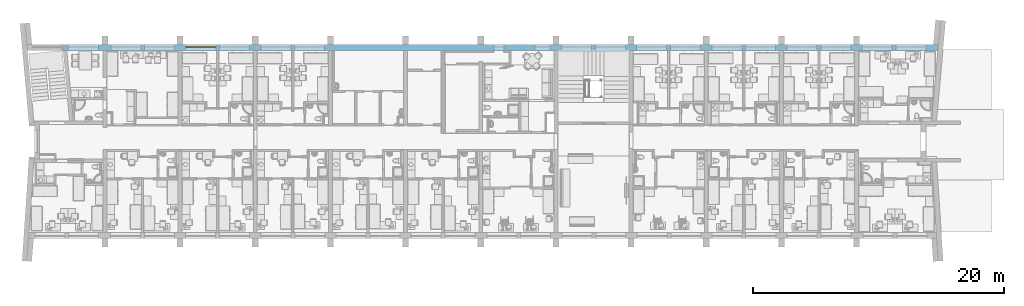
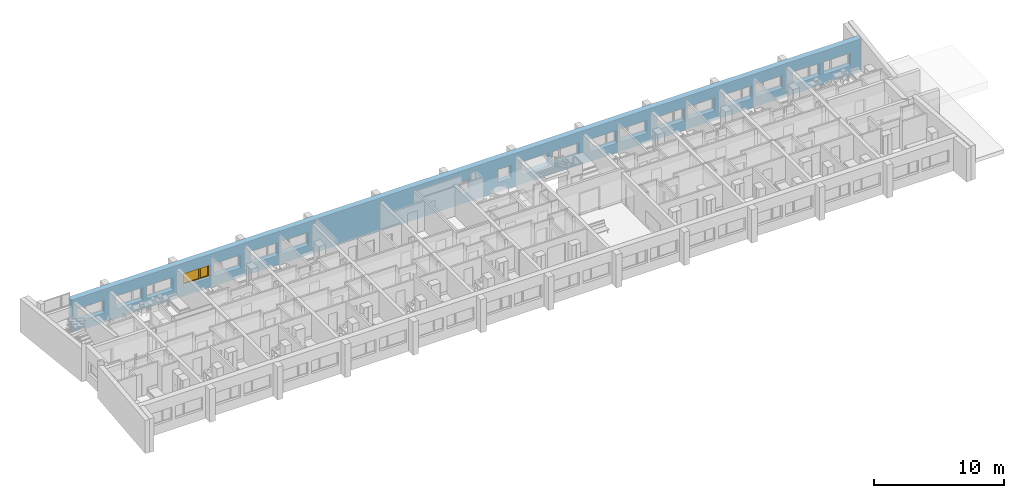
# One storey, part 22 of 172: 1 window, 19 openings, plus 1 element that does not belong to this part.
"""IFC2X3 building model written with IfcOpenShell, lengths in millimetres."""

from ifc_helpers import new_model, entity, si_unit, converted_unit, money_unit, direction, frame, origin_with_axes, place, context, subcontext, project, spatial, polyline, outline, extrude, open_shell, faceted_brep, surface_model, source, transform, mapped, material, material_list, layer, layer_set, layer_usage, type_object, element, fill, save


model = new_model("IFC2X3")

# Units and contexts
model_context = context("Model", 3, precision=1e-05, world=origin_with_axes(), true_north=direction((0.0, 1.0)))
body_context = subcontext(model_context, "Body", "Model", "MODEL_VIEW")
ifc_project = project(units=[si_unit("LENGTHUNIT", "METRE", prefix="MILLI"), si_unit("AREAUNIT", "SQUARE_METRE"), si_unit("VOLUMEUNIT", "CUBIC_METRE"), converted_unit("PLANEANGLEUNIT", "DEGREE", entity("IfcPlaneAngleMeasure", 0.0174532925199), si_unit("PLANEANGLEUNIT", "RADIAN"), dimensions=[0, 0, 0, 0, 0, 0, 0]), si_unit("SOLIDANGLEUNIT", "STERADIAN"), money_unit("USD"), converted_unit("TIMEUNIT", "Year", entity("IfcTimeMeasure", 31556926.0), si_unit("TIMEUNIT", "SECOND"), dimensions=[0, 0, 0, 0, 0, 0, 0]), si_unit("MASSUNIT", "GRAM"), si_unit("THERMODYNAMICTEMPERATUREUNIT", "DEGREE_CELSIUS"), si_unit("LUMINOUSINTENSITYUNIT", "LUMEN")], contexts=[model_context])

# Site, building, storey
site_placement = place(None, origin_with_axes())
site = spatial("IfcSite", under=ifc_project, at=site_placement, Name="Site", CompositionType="ELEMENT")
building_placement = place(site_placement, origin_with_axes())
building = spatial("IfcBuilding", under=site, at=building_placement, Name="Building", CompositionType="ELEMENT")
storey_placement = place(building_placement, frame((0.0, 0.0, 3200.0), z_axis=(0.0, 0.0, 1.0), x_axis=(1.0, 0.0, 0.0)))
storey = spatial("IfcBuildingStorey", under=building, at=storey_placement, Name="3KORRUS", CompositionType="ELEMENT", Elevation=3200.0)

# Wall, openings, window
ifc_material_1 = material(Name="Olemasolevad seinad tellis, uus viimistlus")
ifc_layer = layer(ifc_material_1, 500.0, ventilated="UNKNOWN")
ifc_layer_set = layer_set([ifc_layer], Name="Olemasolevad seinad tellis, uus viimistlus 500")
ifc_layer_usage = layer_usage(ifc_layer_set, "AXIS2", "POSITIVE", -100.0)
wall_type = type_object("IfcWallType", Name="Olemasolevad seinad tellis, uus viimistlus 500", PredefinedType="NOTDEFINED")
wall_placement = place(storey_placement, frame((-51569.3388124, -5039.6041088, 0.0), z_axis=(0.0, 0.0, 1.0), x_axis=(1.0, 0.0, 0.0)))
wall = element("IfcWallStandardCase", 1, at=wall_placement, inside=storey, type_object=wall_type, material=ifc_layer_usage, Name="VS1", ObjectType="VS1", context=body_context, shape_type="SweptSolid", body=[
    extrude(outline(polyline([(0.0, -100.0), (69914.7195482, -100.0), (69959.6995146, 400.0), (0.0, 400.0), (0.0, -100.0)])), origin_with_axes(), (0.0, 0.0, 1.0), 3100.0),
])
opening_1_placement = place(wall_placement, frame((34879.0421091, 0.0, 900.0), z_axis=(0.0, 0.0, 1.0), x_axis=(1.0, 0.0, 0.0)))
element("IfcOpeningElement", 2, at=opening_1_placement, cuts=wall, Name="WD - 001", context=body_context, shape_type="SweptSolid", body=[
    extrude(outline(polyline([(-400.0, 1200.0), (-400.0, 0.0), (400.0, 0.0), (400.0, 1200.0), (-400.0, 1200.0)])), frame((0.0, 200.0, 0.0), z_axis=(0.0, -1.0, 0.0), x_axis=(1.0, 0.0, 0.0)), (0.0, 0.0, 1.0), 800.0),
    extrude(outline(polyline([(-400.0, 0.0), (-400.0, -1200.0), (400.0, -1200.0), (400.0, 0.0), (-400.0, 0.0)])), frame((0.0, 200.0, 0.0), z_axis=(0.0, 1.0, 0.0), x_axis=(1.0, 0.0, 0.0)), (0.0, 0.0, 1.0), 700.0),
])
opening_2_placement = place(wall_placement, frame((38352.6323068, 0.0, 900.0), z_axis=(0.0, 0.0, 1.0), x_axis=(1.0, 0.0, 0.0)))
element("IfcOpeningElement", 3, at=opening_2_placement, cuts=wall, Name="A3", context=body_context, shape_type="SweptSolid", body=[
    extrude(outline(polyline([(-600.0, 1200.0), (-600.0, 0.0), (600.0, 0.0), (600.0, 1200.0), (-600.0, 1200.0)])), frame((0.0, 200.0, 0.0), z_axis=(0.0, -1.0, 0.0), x_axis=(1.0, 0.0, 0.0)), (0.0, 0.0, 1.0), 800.0),
    extrude(outline(polyline([(-600.0, 0.0), (-600.0, -1200.0), (600.0, -1200.0), (600.0, 0.0), (-600.0, 0.0)])), frame((0.0, 200.0, 0.0), z_axis=(0.0, 1.0, 0.0), x_axis=(1.0, 0.0, 0.0)), (0.0, 0.0, 1.0), 700.0),
])
opening_3_placement = place(wall_placement, frame((1700.0, 0.0, 900.0), z_axis=(0.0, 0.0, 1.0), x_axis=(1.0, 0.0, 0.0)))
element("IfcOpeningElement", 4, at=opening_3_placement, cuts=wall, Name="A1", context=body_context, shape_type="SweptSolid", body=[
    extrude(outline(polyline([(1200.0, 1200.0), (-1200.0, 1200.0), (-1200.0, 0.0), (1200.0, 0.0), (1200.0, 1200.0)])), frame((0.0, 200.0, 0.0), z_axis=(0.0, -1.0, 0.0), x_axis=(1.0, 0.0, 0.0)), (0.0, 0.0, 1.0), 800.0),
    extrude(outline(polyline([(1200.0, 0.0), (-1200.0, 0.0), (-1200.0, -1200.0), (1200.0, -1200.0), (1200.0, 0.0)])), frame((0.0, 200.0, 0.0), z_axis=(0.0, 1.0, 0.0), x_axis=(1.0, 0.0, 0.0)), (0.0, 0.0, 1.0), 700.0),
])
opening_4_placement = place(wall_placement, frame((7795.91085613, 0.0, 900.0), z_axis=(0.0, 0.0, 1.0), x_axis=(1.0, 0.0, 0.0)))
element("IfcOpeningElement", 5, at=opening_4_placement, cuts=wall, Name="A1", context=body_context, shape_type="SweptSolid", body=[
    extrude(outline(polyline([(1200.0, 1200.0), (-1200.0, 1200.0), (-1200.0, 0.0), (1200.0, 0.0), (1200.0, 1200.0)])), frame((0.0, 200.0, 0.0), z_axis=(0.0, -1.0, 0.0), x_axis=(1.0, 0.0, 0.0)), (0.0, 0.0, 1.0), 800.0),
    extrude(outline(polyline([(1200.0, 0.0), (-1200.0, 0.0), (-1200.0, -1200.0), (1200.0, -1200.0), (1200.0, 0.0)])), frame((0.0, 200.0, 0.0), z_axis=(0.0, 1.0, 0.0), x_axis=(1.0, 0.0, 0.0)), (0.0, 0.0, 1.0), 700.0),
])
opening_5_placement = place(wall_placement, frame((5095.91085613, 0.0, 900.0), z_axis=(0.0, 0.0, 1.0), x_axis=(1.0, 0.0, 0.0)))
element("IfcOpeningElement", 6, at=opening_5_placement, cuts=wall, Name="A2", context=body_context, shape_type="SweptSolid", body=[
    extrude(outline(polyline([(-1200.0, 1200.0), (-1200.0, 0.0), (1200.0, 0.0), (1200.0, 1200.0), (-1200.0, 1200.0)])), frame((0.0, 200.0, 0.0), z_axis=(0.0, -1.0, 0.0), x_axis=(1.0, 0.0, 0.0)), (0.0, 0.0, 1.0), 800.0),
    extrude(outline(polyline([(-1200.0, 0.0), (-1200.0, -1200.0), (1200.0, -1200.0), (1200.0, 0.0), (-1200.0, 0.0)])), frame((0.0, 200.0, 0.0), z_axis=(0.0, 1.0, 0.0), x_axis=(1.0, 0.0, 0.0)), (0.0, 0.0, 1.0), 700.0),
])
opening_6_placement = place(wall_placement, frame((13779.0421091, 0.0, 900.0), z_axis=(0.0, 0.0, 1.0), x_axis=(1.0, 0.0, 0.0)))
element("IfcOpeningElement", 7, at=opening_6_placement, cuts=wall, Name="A1", context=body_context, shape_type="SweptSolid", body=[
    extrude(outline(polyline([(1200.0, 1200.0), (-1200.0, 1200.0), (-1200.0, 0.0), (1200.0, 0.0), (1200.0, 1200.0)])), frame((0.0, 200.0, 0.0), z_axis=(0.0, -1.0, 0.0), x_axis=(1.0, 0.0, 0.0)), (0.0, 0.0, 1.0), 800.0),
    extrude(outline(polyline([(1200.0, 0.0), (-1200.0, 0.0), (-1200.0, -1200.0), (1200.0, -1200.0), (1200.0, 0.0)])), frame((0.0, 200.0, 0.0), z_axis=(0.0, 1.0, 0.0), x_axis=(1.0, 0.0, 0.0)), (0.0, 0.0, 1.0), 700.0),
])
opening_7_placement = place(wall_placement, frame((11079.0421091, 0.0, 900.0), z_axis=(0.0, 0.0, 1.0), x_axis=(1.0, 0.0, 0.0)))
opening_7 = element("IfcOpeningElement", 8, at=opening_7_placement, cuts=wall, Name="A2", context=body_context, shape_type="SweptSolid", body=[
    extrude(outline(polyline([(-1200.0, 1200.0), (-1200.0, 0.0), (1200.0, 0.0), (1200.0, 1200.0), (-1200.0, 1200.0)])), frame((0.0, 200.0, 0.0), z_axis=(0.0, -1.0, 0.0), x_axis=(1.0, 0.0, 0.0)), (0.0, 0.0, 1.0), 800.0),
    extrude(outline(polyline([(-1200.0, 0.0), (-1200.0, -1200.0), (1200.0, -1200.0), (1200.0, 0.0), (-1200.0, 0.0)])), frame((0.0, 200.0, 0.0), z_axis=(0.0, 1.0, 0.0), x_axis=(1.0, 0.0, 0.0)), (0.0, 0.0, 1.0), 700.0),
])
opening_8_placement = place(wall_placement, frame((43769.0421091, 0.0, 900.0), z_axis=(0.0, 0.0, 1.0), x_axis=(1.0, 0.0, 0.0)))
element("IfcOpeningElement", 9, at=opening_8_placement, cuts=wall, Name="A1", context=body_context, shape_type="SweptSolid", body=[
    extrude(outline(polyline([(1200.0, 1200.0), (-1200.0, 1200.0), (-1200.0, 0.0), (1200.0, 0.0), (1200.0, 1200.0)])), frame((0.0, 200.0, 0.0), z_axis=(0.0, -1.0, 0.0), x_axis=(1.0, 0.0, 0.0)), (0.0, 0.0, 1.0), 800.0),
    extrude(outline(polyline([(1200.0, 0.0), (-1200.0, 0.0), (-1200.0, -1200.0), (1200.0, -1200.0), (1200.0, 0.0)])), frame((0.0, 200.0, 0.0), z_axis=(0.0, 1.0, 0.0), x_axis=(1.0, 0.0, 0.0)), (0.0, 0.0, 1.0), 700.0),
])
opening_9_placement = place(wall_placement, frame((41069.0421091, 0.0, 900.0), z_axis=(0.0, 0.0, 1.0), x_axis=(1.0, 0.0, 0.0)))
element("IfcOpeningElement", 10, at=opening_9_placement, cuts=wall, Name="A2", context=body_context, shape_type="SweptSolid", body=[
    extrude(outline(polyline([(-1200.0, 1200.0), (-1200.0, 0.0), (1200.0, 0.0), (1200.0, 1200.0), (-1200.0, 1200.0)])), frame((0.0, 200.0, 0.0), z_axis=(0.0, -1.0, 0.0), x_axis=(1.0, 0.0, 0.0)), (0.0, 0.0, 1.0), 800.0),
    extrude(outline(polyline([(-1200.0, 0.0), (-1200.0, -1200.0), (1200.0, -1200.0), (1200.0, 0.0), (-1200.0, 0.0)])), frame((0.0, 200.0, 0.0), z_axis=(0.0, 1.0, 0.0), x_axis=(1.0, 0.0, 0.0)), (0.0, 0.0, 1.0), 700.0),
])
opening_10_placement = place(wall_placement, frame((49769.0421091, 0.0, 900.0), z_axis=(0.0, 0.0, 1.0), x_axis=(1.0, 0.0, 0.0)))
element("IfcOpeningElement", 11, at=opening_10_placement, cuts=wall, Name="A1", context=body_context, shape_type="SweptSolid", body=[
    extrude(outline(polyline([(1200.0, 1200.0), (-1200.0, 1200.0), (-1200.0, 0.0), (1200.0, 0.0), (1200.0, 1200.0)])), frame((0.0, 200.0, 0.0), z_axis=(0.0, -1.0, 0.0), x_axis=(1.0, 0.0, 0.0)), (0.0, 0.0, 1.0), 800.0),
    extrude(outline(polyline([(1200.0, 0.0), (-1200.0, 0.0), (-1200.0, -1200.0), (1200.0, -1200.0), (1200.0, 0.0)])), frame((0.0, 200.0, 0.0), z_axis=(0.0, 1.0, 0.0), x_axis=(1.0, 0.0, 0.0)), (0.0, 0.0, 1.0), 700.0),
])
opening_11_placement = place(wall_placement, frame((47069.0421091, 0.0, 900.0), z_axis=(0.0, 0.0, 1.0), x_axis=(1.0, 0.0, 0.0)))
element("IfcOpeningElement", 12, at=opening_11_placement, cuts=wall, Name="A2", context=body_context, shape_type="SweptSolid", body=[
    extrude(outline(polyline([(-1200.0, 1200.0), (-1200.0, 0.0), (1200.0, 0.0), (1200.0, 1200.0), (-1200.0, 1200.0)])), frame((0.0, 200.0, 0.0), z_axis=(0.0, -1.0, 0.0), x_axis=(1.0, 0.0, 0.0)), (0.0, 0.0, 1.0), 800.0),
    extrude(outline(polyline([(-1200.0, 0.0), (-1200.0, -1200.0), (1200.0, -1200.0), (1200.0, 0.0), (-1200.0, 0.0)])), frame((0.0, 200.0, 0.0), z_axis=(0.0, 1.0, 0.0), x_axis=(1.0, 0.0, 0.0)), (0.0, 0.0, 1.0), 700.0),
])
opening_12_placement = place(wall_placement, frame((55769.0421091, 0.0, 900.0), z_axis=(0.0, 0.0, 1.0), x_axis=(1.0, 0.0, 0.0)))
element("IfcOpeningElement", 13, at=opening_12_placement, cuts=wall, Name="A1", context=body_context, shape_type="SweptSolid", body=[
    extrude(outline(polyline([(1200.0, 1200.0), (-1200.0, 1200.0), (-1200.0, 0.0), (1200.0, 0.0), (1200.0, 1200.0)])), frame((0.0, 200.0, 0.0), z_axis=(0.0, -1.0, 0.0), x_axis=(1.0, 0.0, 0.0)), (0.0, 0.0, 1.0), 800.0),
    extrude(outline(polyline([(1200.0, 0.0), (-1200.0, 0.0), (-1200.0, -1200.0), (1200.0, -1200.0), (1200.0, 0.0)])), frame((0.0, 200.0, 0.0), z_axis=(0.0, 1.0, 0.0), x_axis=(1.0, 0.0, 0.0)), (0.0, 0.0, 1.0), 700.0),
])
opening_13_placement = place(wall_placement, frame((53069.0421091, 0.0, 900.0), z_axis=(0.0, 0.0, 1.0), x_axis=(1.0, 0.0, 0.0)))
element("IfcOpeningElement", 14, at=opening_13_placement, cuts=wall, Name="A2", context=body_context, shape_type="SweptSolid", body=[
    extrude(outline(polyline([(-1200.0, 1200.0), (-1200.0, 0.0), (1200.0, 0.0), (1200.0, 1200.0), (-1200.0, 1200.0)])), frame((0.0, 200.0, 0.0), z_axis=(0.0, -1.0, 0.0), x_axis=(1.0, 0.0, 0.0)), (0.0, 0.0, 1.0), 800.0),
    extrude(outline(polyline([(-1200.0, 0.0), (-1200.0, -1200.0), (1200.0, -1200.0), (1200.0, 0.0), (-1200.0, 0.0)])), frame((0.0, 200.0, 0.0), z_axis=(0.0, 1.0, 0.0), x_axis=(1.0, 0.0, 0.0)), (0.0, 0.0, 1.0), 700.0),
])
opening_14_placement = place(wall_placement, frame((61769.0421091, 0.0, 900.0), z_axis=(0.0, 0.0, 1.0), x_axis=(1.0, 0.0, 0.0)))
element("IfcOpeningElement", 15, at=opening_14_placement, cuts=wall, Name="A1", context=body_context, shape_type="SweptSolid", body=[
    extrude(outline(polyline([(1200.0, 1200.0), (-1200.0, 1200.0), (-1200.0, 0.0), (1200.0, 0.0), (1200.0, 1200.0)])), frame((0.0, 200.0, 0.0), z_axis=(0.0, -1.0, 0.0), x_axis=(1.0, 0.0, 0.0)), (0.0, 0.0, 1.0), 800.0),
    extrude(outline(polyline([(1200.0, 0.0), (-1200.0, 0.0), (-1200.0, -1200.0), (1200.0, -1200.0), (1200.0, 0.0)])), frame((0.0, 200.0, 0.0), z_axis=(0.0, 1.0, 0.0), x_axis=(1.0, 0.0, 0.0)), (0.0, 0.0, 1.0), 700.0),
])
opening_15_placement = place(wall_placement, frame((59069.0421091, 0.0, 900.0), z_axis=(0.0, 0.0, 1.0), x_axis=(1.0, 0.0, 0.0)))
element("IfcOpeningElement", 16, at=opening_15_placement, cuts=wall, Name="A2", context=body_context, shape_type="SweptSolid", body=[
    extrude(outline(polyline([(-1200.0, 1200.0), (-1200.0, 0.0), (1200.0, 0.0), (1200.0, 1200.0), (-1200.0, 1200.0)])), frame((0.0, 200.0, 0.0), z_axis=(0.0, -1.0, 0.0), x_axis=(1.0, 0.0, 0.0)), (0.0, 0.0, 1.0), 800.0),
    extrude(outline(polyline([(-1200.0, 0.0), (-1200.0, -1200.0), (1200.0, -1200.0), (1200.0, 0.0), (-1200.0, 0.0)])), frame((0.0, 200.0, 0.0), z_axis=(0.0, 1.0, 0.0), x_axis=(1.0, 0.0, 0.0)), (0.0, 0.0, 1.0), 700.0),
])
opening_16_placement = place(wall_placement, frame((67773.3244043, 0.0, 900.0), z_axis=(0.0, 0.0, 1.0), x_axis=(1.0, 0.0, 0.0)))
element("IfcOpeningElement", 17, at=opening_16_placement, cuts=wall, Name="A1", context=body_context, shape_type="SweptSolid", body=[
    extrude(outline(polyline([(1200.0, 1200.0), (-1200.0, 1200.0), (-1200.0, 0.0), (1200.0, 0.0), (1200.0, 1200.0)])), frame((0.0, 200.0, 0.0), z_axis=(0.0, -1.0, 0.0), x_axis=(1.0, 0.0, 0.0)), (0.0, 0.0, 1.0), 800.0),
    extrude(outline(polyline([(1200.0, 0.0), (-1200.0, 0.0), (-1200.0, -1200.0), (1200.0, -1200.0), (1200.0, 0.0)])), frame((0.0, 200.0, 0.0), z_axis=(0.0, 1.0, 0.0), x_axis=(1.0, 0.0, 0.0)), (0.0, 0.0, 1.0), 700.0),
])
opening_17_placement = place(wall_placement, frame((65073.3244043, 0.0, 900.0), z_axis=(0.0, 0.0, 1.0), x_axis=(1.0, 0.0, 0.0)))
element("IfcOpeningElement", 18, at=opening_17_placement, cuts=wall, Name="A2", context=body_context, shape_type="SweptSolid", body=[
    extrude(outline(polyline([(-1200.0, 1200.0), (-1200.0, 0.0), (1200.0, 0.0), (1200.0, 1200.0), (-1200.0, 1200.0)])), frame((0.0, 200.0, 0.0), z_axis=(0.0, -1.0, 0.0), x_axis=(1.0, 0.0, 0.0)), (0.0, 0.0, 1.0), 800.0),
    extrude(outline(polyline([(-1200.0, 0.0), (-1200.0, -1200.0), (1200.0, -1200.0), (1200.0, 0.0), (-1200.0, 0.0)])), frame((0.0, 200.0, 0.0), z_axis=(0.0, 1.0, 0.0), x_axis=(1.0, 0.0, 0.0)), (0.0, 0.0, 1.0), 700.0),
])
opening_18_placement = place(wall_placement, frame((19767.4765851, 0.0, 900.0), z_axis=(0.0, 0.0, 1.0), x_axis=(1.0, 0.0, 0.0)))
element("IfcOpeningElement", 19, at=opening_18_placement, cuts=wall, Name="A1", context=body_context, shape_type="SweptSolid", body=[
    extrude(outline(polyline([(1200.0, 1200.0), (-1200.0, 1200.0), (-1200.0, 0.0), (1200.0, 0.0), (1200.0, 1200.0)])), frame((0.0, 200.0, 0.0), z_axis=(0.0, -1.0, 0.0), x_axis=(1.0, 0.0, 0.0)), (0.0, 0.0, 1.0), 800.0),
    extrude(outline(polyline([(1200.0, 0.0), (-1200.0, 0.0), (-1200.0, -1200.0), (1200.0, -1200.0), (1200.0, 0.0)])), frame((0.0, 200.0, 0.0), z_axis=(0.0, 1.0, 0.0), x_axis=(1.0, 0.0, 0.0)), (0.0, 0.0, 1.0), 700.0),
])
opening_19_placement = place(wall_placement, frame((17067.4765851, 0.0, 900.0), z_axis=(0.0, 0.0, 1.0), x_axis=(1.0, 0.0, 0.0)))
element("IfcOpeningElement", 20, at=opening_19_placement, cuts=wall, Name="A2", context=body_context, shape_type="SweptSolid", body=[
    extrude(outline(polyline([(-1200.0, 1200.0), (-1200.0, 0.0), (1200.0, 0.0), (1200.0, 1200.0), (-1200.0, 1200.0)])), frame((0.0, 200.0, 0.0), z_axis=(0.0, -1.0, 0.0), x_axis=(1.0, 0.0, 0.0)), (0.0, 0.0, 1.0), 800.0),
    extrude(outline(polyline([(-1200.0, 0.0), (-1200.0, -1200.0), (1200.0, -1200.0), (1200.0, 0.0), (-1200.0, 0.0)])), frame((0.0, 200.0, 0.0), z_axis=(0.0, 1.0, 0.0), x_axis=(1.0, 0.0, 0.0)), (0.0, 0.0, 1.0), 700.0),
])
ifc_material_2 = material(Name="Background")
ifc_material_list = material_list([ifc_material_2])
window_style = type_object("IfcWindowStyle", Name="Double Window 19", ConstructionType="NOTDEFINED", OperationType="DOUBLE_PANEL_VERTICAL", ParameterTakesPrecedence=False, Sizeable=False)
shared_shape = source(origin_with_axes(), body_context, "Body", "SurfaceModel", [
    faceted_brep([(-1175.0, -200.0, 1150.0), (-1200.0, -200.0, 1150.0), (-1200.0, -250.0, 1150.0), (-1150.0, -250.0, 1150.0), (-1150.0, -225.0, 1150.0), (-1175.0, -225.0, 1150.0), (-1175.0, -200.0, 50.0), (-1200.0, -200.0, 50.0), (-1200.0, -250.0, 50.0), (-1150.0, -250.0, 50.0), (-1150.0, -225.0, 50.0), (-1175.0, -225.0, 50.0)], [[[0, 1, 2, 3, 4, 5]], [[6, 7, 1, 0]], [[1, 7, 8, 2]], [[2, 8, 9, 3]], [[4, 3, 9, 10]], [[10, 11, 5, 4]], [[5, 11, 6, 0]], [[11, 10, 9, 8, 7, 6]]]),
    faceted_brep([(1150.0, -225.0, 1150.0), (1150.0, -250.0, 1150.0), (1200.0, -250.0, 1150.0), (1200.0, -200.0, 1150.0), (1175.0, -200.0, 1150.0), (1175.0, -225.0, 1150.0), (1150.0, -225.0, 50.0), (1150.0, -250.0, 50.0), (1200.0, -250.0, 50.0), (1200.0, -200.0, 50.0), (1175.0, -200.0, 50.0), (1175.0, -225.0, 50.0)], [[[0, 1, 2, 3, 4, 5]], [[6, 7, 1, 0]], [[8, 2, 1, 7]], [[9, 3, 2, 8]], [[4, 3, 9, 10]], [[10, 11, 5, 4]], [[5, 11, 6, 0]], [[11, 10, 9, 8, 7, 6]]]),
    faceted_brep([(350.0, -225.0, 1150.0), (350.0, -250.0, 1150.0), (450.0, -250.0, 1150.0), (450.0, -225.0, 1150.0), (425.0, -225.0, 1150.0), (425.0, -200.0, 1150.0), (375.0, -200.0, 1150.0), (375.0, -225.0, 1150.0), (350.0, -225.0, 50.0), (350.0, -250.0, 50.0), (450.0, -250.0, 50.0), (450.0, -225.0, 50.0), (425.0, -225.0, 50.0), (425.0, -200.0, 50.0), (375.0, -200.0, 50.0), (375.0, -225.0, 50.0)], [[[0, 1, 2, 3, 4, 5, 6, 7]], [[8, 9, 1, 0]], [[10, 2, 1, 9]], [[3, 2, 10, 11]], [[11, 12, 4, 3]], [[4, 12, 13, 5]], [[6, 5, 13, 14]], [[14, 15, 7, 6]], [[7, 15, 8, 0]], [[15, 14, 13, 12, 11, 10, 9, 8]]]),
    faceted_brep([(350.0, -225.0, 50.0), (350.0, -250.0, 50.0), (450.0, -250.0, 50.0), (450.0, -225.0, 50.0), (425.0, -225.0, 50.0), (425.0, -200.0, 50.0), (375.0, -200.0, 50.0), (375.0, -225.0, 50.0), (-1150.0, -225.0, 50.0), (-1150.0, -250.0, 50.0), (-1200.0, -250.0, 50.0), (-1200.0, -250.0, 0.0), (1200.0, -250.0, 0.0), (1200.0, -250.0, 50.0), (1150.0, -250.0, 50.0), (1150.0, -225.0, 50.0), (1175.0, -225.0, 50.0), (1175.0, -225.0, 25.0), (425.0, -225.0, 25.0), (425.0, -200.0, 25.0), (-1175.0, -200.0, 25.0), (375.0, -200.0, 25.0), (1175.0, -200.0, 25.0), (1175.0, -200.0, 50.0), (1200.0, -200.0, 50.0), (1200.0, -200.0, 0.0), (-1200.0, -200.0, 0.0), (-1200.0, -200.0, 50.0), (-1175.0, -200.0, 50.0), (375.0, -225.0, 25.0), (-1175.0, -225.0, 25.0), (-1175.0, -225.0, 50.0)], [[[0, 1, 2, 3, 4, 5, 6, 7]], [[8, 9, 1, 0]], [[10, 11, 12, 13, 14, 2, 1, 9]], [[3, 2, 14, 15]], [[16, 17, 18, 4, 3, 15]], [[4, 18, 19, 5]], [[20, 21, 6, 5, 19, 22, 23, 24, 25, 26, 27, 28]], [[21, 29, 7, 6]], [[7, 29, 30, 31, 8, 0]], [[31, 28, 27, 10, 9, 8]], [[27, 26, 11, 10]], [[26, 25, 12, 11]], [[25, 24, 13, 12]], [[15, 14, 13, 24, 23, 16]], [[22, 17, 16, 23]], [[19, 18, 17, 22]], [[20, 30, 29, 21]], [[31, 30, 20, 28]]]),
    faceted_brep([(-1175.0, -200.0, 1150.0), (-1200.0, -200.0, 1150.0), (-1200.0, -200.0, 1200.0), (1200.0, -200.0, 1200.0), (1200.0, -200.0, 1150.0), (1175.0, -200.0, 1150.0), (1175.0, -200.0, 1175.0), (425.0, -200.0, 1175.0), (425.0, -200.0, 1150.0), (375.0, -200.0, 1150.0), (375.0, -200.0, 1175.0), (-1175.0, -200.0, 1175.0), (-1175.0, -225.0, 1150.0), (-1150.0, -225.0, 1150.0), (-1150.0, -250.0, 1150.0), (-1200.0, -250.0, 1150.0), (-1200.0, -250.0, 1200.0), (1200.0, -250.0, 1200.0), (1200.0, -250.0, 1150.0), (1175.0, -225.0, 1150.0), (1150.0, -250.0, 1150.0), (1150.0, -225.0, 1150.0), (1175.0, -225.0, 1175.0), (425.0, -225.0, 1175.0), (425.0, -225.0, 1150.0), (375.0, -225.0, 1150.0), (450.0, -225.0, 1150.0), (450.0, -250.0, 1150.0), (350.0, -250.0, 1150.0), (350.0, -225.0, 1150.0), (375.0, -225.0, 1175.0), (-1175.0, -225.0, 1175.0)], [[[0, 1, 2, 3, 4, 5, 6, 7, 8, 9, 10, 11]], [[12, 13, 14, 15, 1, 0]], [[2, 1, 15, 16]], [[3, 2, 16, 17]], [[4, 3, 17, 18]], [[19, 5, 4, 18, 20, 21]], [[5, 19, 22, 6]], [[6, 22, 23, 7]], [[7, 23, 24, 8]], [[25, 9, 8, 24, 26, 27, 28, 29]], [[9, 25, 30, 10]], [[10, 30, 31, 11]], [[11, 31, 12, 0]], [[29, 13, 12, 31, 30, 25]], [[29, 28, 14, 13]], [[27, 20, 18, 17, 16, 15, 14, 28]], [[21, 20, 27, 26]], [[21, 26, 24, 23, 22, 19]]]),
    faceted_brep([(-1125.0, -225.0, 1125.0), (-1125.0, -175.0, 1125.0), (-1175.0, -175.0, 1125.0), (-1175.0, -225.0, 1125.0), (-1125.0, -225.0, 75.0), (-1125.0, -175.0, 75.0), (-1175.0, -175.0, 75.0), (-1175.0, -225.0, 75.0)], [[[0, 1, 2, 3]], [[4, 5, 1, 0]], [[1, 5, 6, 2]], [[3, 2, 6, 7]], [[0, 3, 7, 4]], [[7, 6, 5, 4]]]),
    faceted_brep([(325.0, -225.0, 75.0), (325.0, -175.0, 75.0), (375.0, -175.0, 75.0), (375.0, -225.0, 75.0), (325.0, -225.0, 1125.0), (325.0, -175.0, 1125.0), (375.0, -175.0, 1125.0), (375.0, -225.0, 1125.0)], [[[0, 1, 2, 3]], [[4, 5, 1, 0]], [[1, 5, 6, 2]], [[3, 2, 6, 7]], [[0, 3, 7, 4]], [[7, 6, 5, 4]]]),
    faceted_brep([(375.0, -225.0, 25.0), (375.0, -175.0, 25.0), (375.0, -175.0, 75.0), (375.0, -225.0, 75.0), (-1175.0, -225.0, 25.0), (-1175.0, -175.0, 25.0), (-1175.0, -175.0, 75.0), (-1125.0, -175.0, 75.0), (325.0, -175.0, 75.0), (325.0, -225.0, 75.0), (-1125.0, -225.0, 75.0), (-1175.0, -225.0, 75.0)], [[[0, 1, 2, 3]], [[4, 5, 1, 0]], [[1, 5, 6, 7, 8, 2]], [[3, 2, 8, 9]], [[0, 3, 9, 10, 11, 4]], [[11, 6, 5, 4]], [[10, 7, 6, 11]], [[9, 8, 7, 10]]]),
    faceted_brep([(-1175.0, -225.0, 1175.0), (-1175.0, -175.0, 1175.0), (-1175.0, -175.0, 1125.0), (-1175.0, -225.0, 1125.0), (375.0, -225.0, 1175.0), (375.0, -175.0, 1175.0), (375.0, -175.0, 1125.0), (325.0, -175.0, 1125.0), (-1125.0, -175.0, 1125.0), (-1125.0, -225.0, 1125.0), (325.0, -225.0, 1125.0), (375.0, -225.0, 1125.0)], [[[0, 1, 2, 3]], [[4, 5, 1, 0]], [[1, 5, 6, 7, 8, 2]], [[3, 2, 8, 9]], [[0, 3, 9, 10, 11, 4]], [[11, 6, 5, 4]], [[10, 7, 6, 11]], [[9, 8, 7, 10]]]),
    surface_model("IfcShellBasedSurfaceModel", [(-1125.0, -210.0, 75.0), (325.0, -210.0, 75.0), (325.0, -210.0, 1125.0), (-1125.0, -210.0, 1125.0)], [open_shell([[[0, 1, 2, 3]]])]),
    surface_model("IfcShellBasedSurfaceModel", [(-1125.0, -190.0, 75.0), (-1125.0, -190.0, 1125.0), (325.0, -190.0, 1125.0), (325.0, -190.0, 75.0)], [open_shell([[[0, 1, 2, 3]]])]),
    faceted_brep([(475.0, -225.0, 1125.0), (475.0, -175.0, 1125.0), (425.0, -175.0, 1125.0), (425.0, -225.0, 1125.0), (475.0, -225.0, 75.0), (475.0, -175.0, 75.0), (425.0, -175.0, 75.0), (425.0, -225.0, 75.0)], [[[0, 1, 2, 3]], [[4, 5, 1, 0]], [[1, 5, 6, 2]], [[3, 2, 6, 7]], [[0, 3, 7, 4]], [[7, 6, 5, 4]]]),
    faceted_brep([(1125.0, -225.0, 75.0), (1125.0, -175.0, 75.0), (1175.0, -175.0, 75.0), (1175.0, -225.0, 75.0), (1125.0, -225.0, 1125.0), (1125.0, -175.0, 1125.0), (1175.0, -175.0, 1125.0), (1175.0, -225.0, 1125.0)], [[[0, 1, 2, 3]], [[4, 5, 1, 0]], [[1, 5, 6, 2]], [[3, 2, 6, 7]], [[0, 3, 7, 4]], [[7, 6, 5, 4]]]),
    faceted_brep([(1175.0, -225.0, 25.0), (1175.0, -175.0, 25.0), (1175.0, -175.0, 75.0), (1175.0, -225.0, 75.0), (425.0, -225.0, 25.0), (425.0, -175.0, 25.0), (425.0, -175.0, 75.0), (475.0, -175.0, 75.0), (1125.0, -175.0, 75.0), (1125.0, -225.0, 75.0), (475.0, -225.0, 75.0), (425.0, -225.0, 75.0)], [[[0, 1, 2, 3]], [[4, 5, 1, 0]], [[1, 5, 6, 7, 8, 2]], [[3, 2, 8, 9]], [[0, 3, 9, 10, 11, 4]], [[11, 6, 5, 4]], [[10, 7, 6, 11]], [[9, 8, 7, 10]]]),
    faceted_brep([(425.0, -225.0, 1175.0), (425.0, -175.0, 1175.0), (425.0, -175.0, 1125.0), (425.0, -225.0, 1125.0), (1175.0, -225.0, 1175.0), (1175.0, -175.0, 1175.0), (1175.0, -175.0, 1125.0), (1125.0, -175.0, 1125.0), (475.0, -175.0, 1125.0), (475.0, -225.0, 1125.0), (1125.0, -225.0, 1125.0), (1175.0, -225.0, 1125.0)], [[[0, 1, 2, 3]], [[4, 5, 1, 0]], [[1, 5, 6, 7, 8, 2]], [[3, 2, 8, 9]], [[0, 3, 9, 10, 11, 4]], [[11, 6, 5, 4]], [[10, 7, 6, 11]], [[9, 8, 7, 10]]]),
    surface_model("IfcShellBasedSurfaceModel", [(475.0, -210.0, 75.0), (1125.0, -210.0, 75.0), (1125.0, -210.0, 1125.0), (475.0, -210.0, 1125.0)], [open_shell([[[0, 1, 2, 3]]])]),
    surface_model("IfcShellBasedSurfaceModel", [(475.0, -190.0, 75.0), (475.0, -190.0, 1125.0), (1125.0, -190.0, 1125.0), (1125.0, -190.0, 75.0)], [open_shell([[[0, 1, 2, 3]]])]),
])
window_placement = place(opening_7_placement, frame((-1200.0, 0.0, 0.0), z_axis=(0.0, 0.0, 1.0), x_axis=(1.0, 0.0, 0.0)))
window = element("IfcWindow", 21, at=window_placement, inside=storey, type_object=window_style, material=ifc_material_list, Name="A2", ObjectType="A2", OverallHeight=1200.0, OverallWidth=2400.0, context=body_context, shape_type="MappedRepresentation", body=[
    mapped(shared_shape, transform((1200.0, 400.0, 0.0))),
])
fill(opening_7, window)

save(model, "model.ifc")
